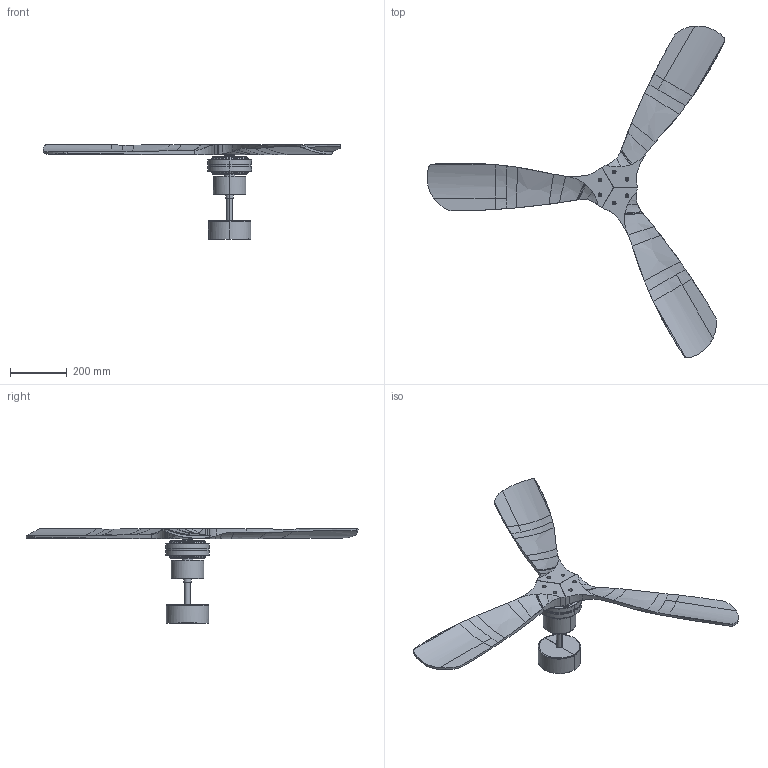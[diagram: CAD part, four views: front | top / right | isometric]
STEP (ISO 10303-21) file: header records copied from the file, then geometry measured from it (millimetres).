
FILE_DESCRIPTION(/* description */ (''),/* implementation_level */ '2;1');
FILE_NAME(/* name */ 'C:\Users\FrancoSartori\Documents\FARO\01_En Proceso\0000_2022\0_LANTAU\03_Publicación\33373.stp',/* time_stamp */ '2022-02-04T10:41:07+01:00',/* author */ ('FrancoSartori'),/* organization */ (''),/* preprocessor_version */ 'ST-DEVELOPER v18.1',/* originating_system */ 'AutoCAD Mechanical',/* authorisation */ '');
FILE_SCHEMA (('AUTOMOTIVE_DESIGN { 1 0 10303 214 3 1 1 }'));
Length unit declared in the file: millimetre
Products named in the file (3): Product; 33370_33373_33516_33518_LANTAU - LANTAU-458435-_3D_; 33370_33373_33516_33518_LANTAU_lamp - LANTAU-458433-_3D_
Assembly tree (2 placements, depth 2):
  Product
    33370_33373_33516_33518_LANTAU - LANTAU-458435-_3D_
    33370_33373_33516_33518_LANTAU_lamp - LANTAU-458433-_3D_
Bounding box: 1053.46 x 1173.98 x 335.74 mm (x, y, z)
Volume: 3506225.3 mm3; surface area: 961087.6 mm2
Topology: 9 solids, 9 shells, 419 faces, 1146 edges, 738 vertices
Faces by surface type: cylinder 153, plane 125, bspline 69, torus 56, cone 16
Entity records: 19486 total; most frequent: CARTESIAN_POINT 9741, ORIENTED_EDGE 2280, DIRECTION 1600, EDGE_CURVE 1140, VERTEX_POINT 733, AXIS2_PLACEMENT_3D 624, B_SPLINE_CURVE_WITH_KNOTS 522, EDGE_LOOP 461
